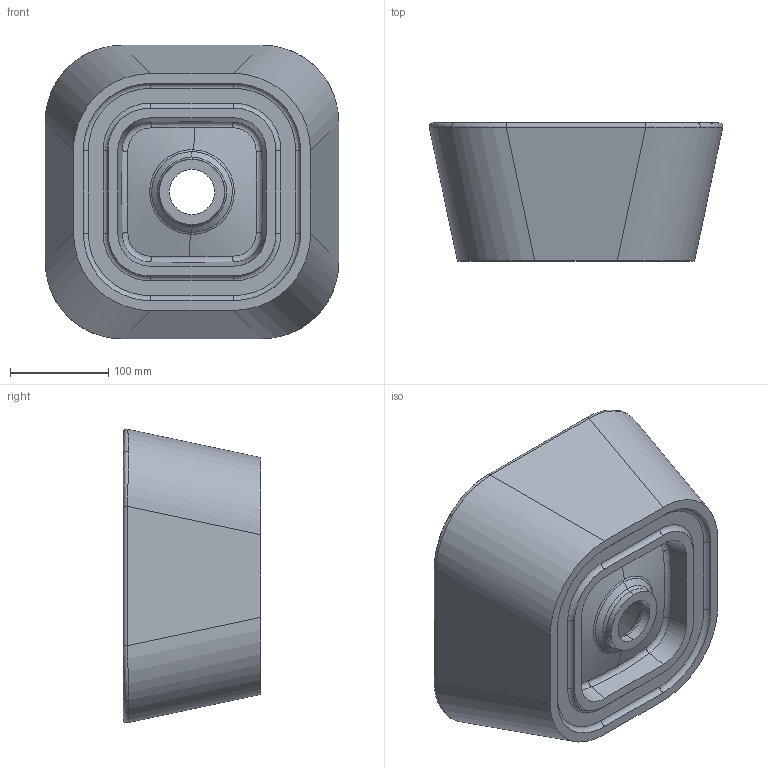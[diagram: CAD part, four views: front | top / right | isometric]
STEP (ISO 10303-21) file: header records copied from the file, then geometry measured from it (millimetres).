
FILE_DESCRIPTION (( 'STEP AP203' ), '1' );
FILE_NAME ('BULA03030000.STEP', '2019-01-29T16:41:50', ( '' ), ( '' ), 'SwSTEP 2.0', 'SolidWorks 2019', '' );
FILE_SCHEMA (( 'CONFIG_CONTROL_DESIGN' ));
Length unit declared in the file: millimetre
Products named in the file (1): BULA03030000
Bounding box: 298.11 x 140 x 298.11 mm (x, y, z)
Volume: 3918592 mm3; surface area: 448192.9 mm2
Topology: 1 solids, 2 shells, 130 faces, 330 edges, 206 vertices
Faces by surface type: bspline 54, cylinder 34, plane 30, torus 6, cone 6
Entity records: 12191 total; most frequent: CARTESIAN_POINT 9451, ORIENTED_EDGE 660, DIRECTION 422, EDGE_CURVE 330, VERTEX_POINT 206, AXIS2_PLACEMENT_3D 155, EDGE_LOOP 136, ADVANCED_FACE 130
